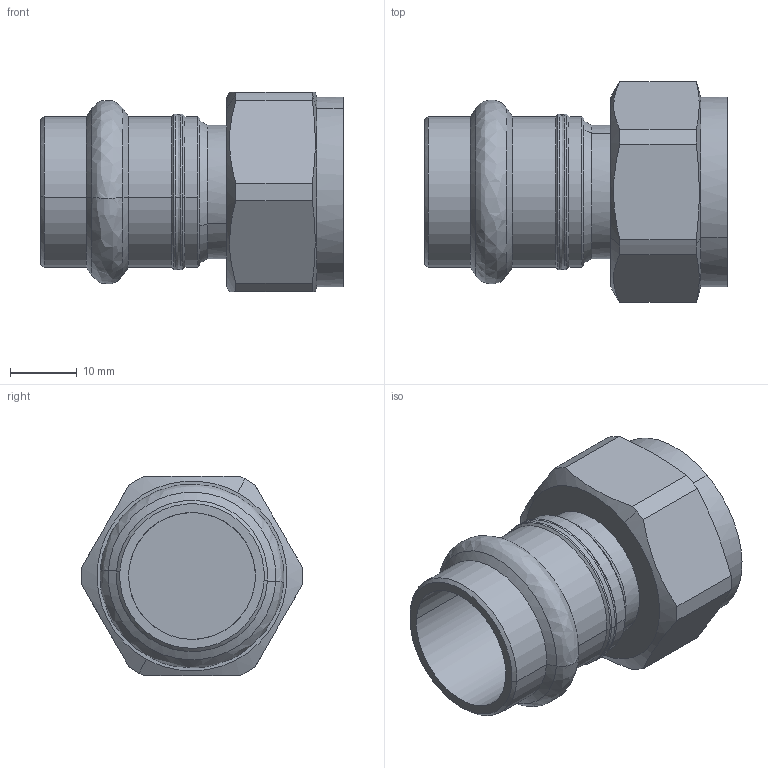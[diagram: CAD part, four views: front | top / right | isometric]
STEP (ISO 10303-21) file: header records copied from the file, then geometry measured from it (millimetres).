
FILE_DESCRIPTION(('STEP AP214'),'1');
FILE_NAME('pim0004672.stp','2015-04-30T14:21:03',('Cad-Pim'),('TransMagic, Inc.'),'TMR11sp0','TransMagic R11',' ');
FILE_SCHEMA(('AUTOMOTIVE_DESIGN'));
Length unit declared in the file: millimetre
Products named in the file (1): pim0004672
Bounding box: 45.4 x 33.15 x 30 mm (x, y, z)
Volume: 16131.8 mm3; surface area: 8013.3 mm2
Topology: 1 solids, 1 shells, 63 faces, 171 edges, 115 vertices
Faces by surface type: cylinder 24, cone 20, bspline 19
Entity records: 2870 total; most frequent: CARTESIAN_POINT 1011, ORIENTED_EDGE 342, DIRECTION 202, EDGE_CURVE 171, VERTEX_POINT 115, AXIS2_PLACEMENT_3D 82, EDGE_LOOP 68, STYLED_ITEM 64
